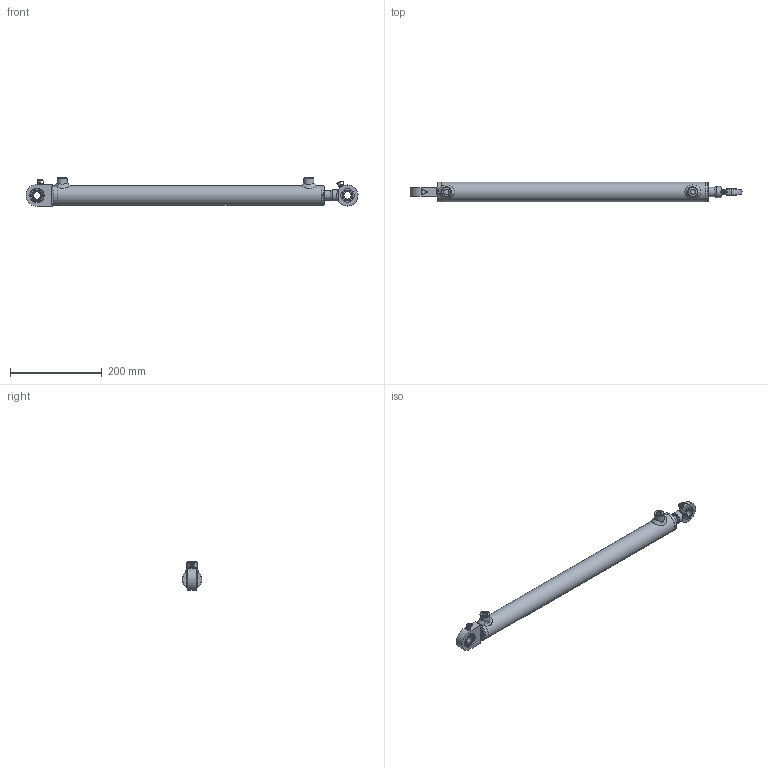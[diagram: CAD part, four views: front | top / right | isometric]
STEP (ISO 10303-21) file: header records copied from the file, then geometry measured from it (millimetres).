
FILE_DESCRIPTION( ( 'Unknown' ), '1' );
FILE_NAME( 'E:/LIBRERIA_3d/CILINDRI/HMB/HMB032200500.stp', 'Unknown', ( 'Unknown' ), ( 'Unknown' ), 'PSStep 17.0.49', 'Unknown', ' ' );
FILE_SCHEMA( ( 'AUTOMOTIVE_DESIGN { 1 0 10303 214 1 1 1 1 }' ) );
Length unit declared in the file: millimetre
Products named in the file (36): CT00032015; CG04203220; STFR032050500-oa9; Saldatura d'angolo 1-oa7; MAT_PRIMA_TUBO_FT04203200-oa8; CBSC220400; CSTSF016N0-oa2; CSTS016N_CORPO-oa0; CSAI002030; CSAI002030-oa1; CSTSF016C0; tsc16c_corpo; AN00006001; CSTS016N00; CGE0160000; CSTS016C00; HM0032200500; Saldatura con preparazione 1-oa5; Saldatura d'angolo 1-oa6; CF00032042; CBS0400000; CDA0001415; APG0400000; SBL0200320500; Assem1; Saldatura d'angolo 1-oa3; Saldatura d'angolo 2-oa4; APGR013000
Assembly tree (30 placements, depth 4):
  Saldatura d'angolo 1-oa7
  Saldatura d'angolo 1-oa7
  Saldatura d'angolo 1-oa6
  Saldatura d'angolo 1-oa6
  Assem1
    APGR013000  x2
    CSTS016C00
      CGE0160000
      CSTSF016C0
        tsc16c_corpo
        AN00006001
    CSTS016N00
      CGE0160000
      AN00006001
      CSTSF016N0-oa2
        CSTS016N_CORPO-oa0
        CSAI002030
        CSAI002030-oa1
    HM0032200500
      Saldatura con preparazione 1-oa5
      Saldatura con preparazione 1-oa5
      CF00032042
      CBS0400000
      CDA0001415
      APG0400000  x2
      SBL0200320500
      CG04203220
        CG04203220
      CT00032015
        CT00032015
      STFR032050500-oa9
        MAT_PRIMA_TUBO_FT04203200-oa8
        CBSC220400
Bounding box: 721.83 x 42 x 63 mm (x, y, z)
Volume: 633400 mm3; surface area: 239686.8 mm2
Topology: 30 solids, 30 shells, 449 faces, 952 edges, 578 vertices
Faces by surface type: plane 142, bspline 114, cylinder 89, cone 53, torus 42, sphere 9
Full cylindrical faces by diameter (mm): 2 x4, 2.4 x1, 3 x3, 3.25 x1, 4 x2, 4.25 x1, 5 x7, 6 x2, 8 x2, 9 x2, 11.445 x2, 12 x2, 13.1 x2, 14 x2, 15 x3, 16 x2, 19.5 x1, 20 x8, 22 x4, 23 x1, 24 x2, 28 x3, 28.3 x1, 28.6 x1, 30 x8, 31.4 x2, 31.9 x1, 32 x1, 32.3 x1, 32.5 x1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
Entity records: 19852 total; most frequent: CARTESIAN_POINT 9321, DIRECTION 1280, ORIENTED_EDGE 1250, EDGE_LOOP 647, EDGE_CURVE 625, AXIS2_PLACEMENT_3D 589, FACE_OUTER_BOUND 535, VERTEX_POINT 464
